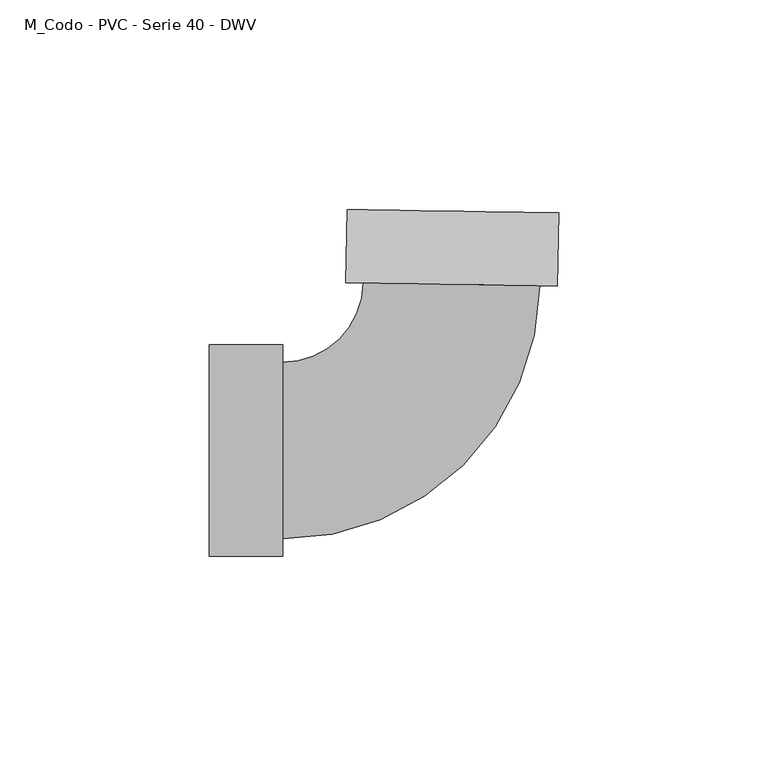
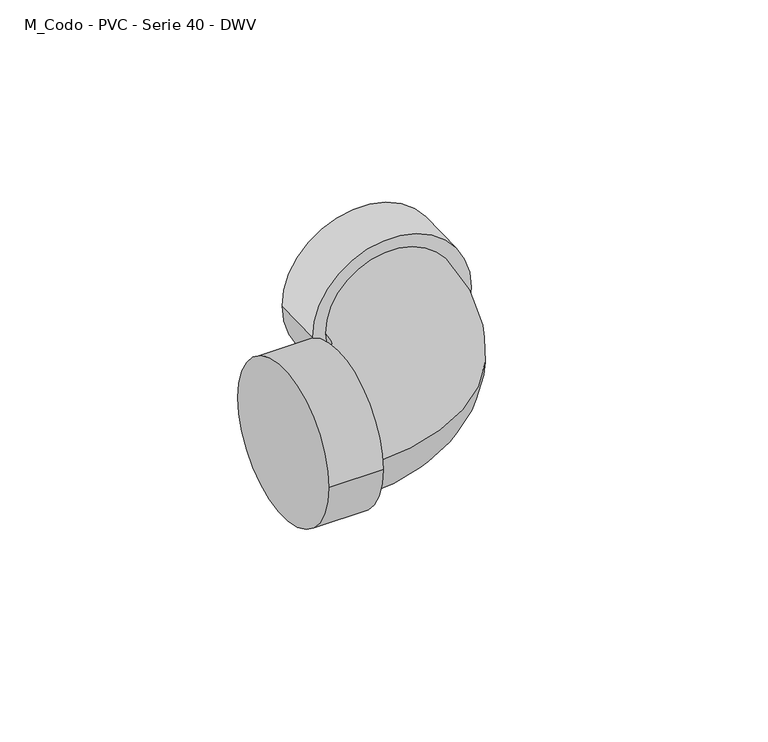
"""IFC4 building model written with IfcOpenShell, lengths in millimetres: pipe fitting geometry, M_Codo - PVC - Serie 40 - DWV : Estándar."""

from ifc_helpers import new_model, si_unit, point, frame, origin, place, context, project, spatial, circle_curve, ellipse_curve, trimmed, source, transform, mapped, element, save
from ifc_brep_helpers import plane_surface, cylinder_surface, revolved_surface, advanced_brep


def m_codo_pvc_serie_40_dwv_f30e2e26(model_context):
    return source(origin(), model_context, "Body", "AdvancedBrep", [
        advanced_brep(
        [(-57.15, -25.2349, 0.0), (-57.15, 25.2349, 0.0), (-39.7002, -25.2349, 0.0), (-39.7002, 25.2349, 0.0), (-39.7002, -21.082, 0.0), (-39.7002, 21.082, 0.0), (-20.4369508, 40.0360793, 0.0), (21.7215307, 39.3539287, 0.0), (25.8738872, 39.286741, 0.0), (-24.5893073, 40.103267, 0.0), (26.1561989, 56.7342572, 0.0), (-24.3069956, 57.5507832, 0.0)],
        [
            (0, 1, circle_curve(frame((-57.15, 0.0, 0.0), z_axis=(-1.0, 0.0, 0.0), x_axis=(0.0, 1.0, 0.0)), 25.2349)),
            (1, 0, circle_curve(frame((-57.15, 0.0, 0.0), z_axis=(-1.0, 0.0, 0.0), x_axis=(0.0, 1.0, 0.0)), 25.2349)),
            (2, 3, circle_curve(frame((-39.7002, 0.0, 0.0), z_axis=(1.0, 0.0, 0.0), x_axis=(0.0, 1.0, 0.0)), 25.2349)),
            (3, 2, circle_curve(frame((-39.7002, 0.0, 0.0), z_axis=(1.0, 0.0, 0.0), x_axis=(0.0, 1.0, 0.0)), 25.2349)),
            (4, 5, circle_curve(frame((-39.7002, 0.0, 0.0), z_axis=(-1.0, 0.0, 0.0), x_axis=(0.0, 1.0, 0.0)), 21.082)),
            (5, 4, circle_curve(frame((-39.7002, 0.0, 0.0), z_axis=(-1.0, 0.0, 0.0), x_axis=(0.0, 1.0, 0.0)), 21.082)),
            (0, 2),
            (3, 1),
            (6, 5, circle_curve(frame((-39.7002, 40.3477707, 0.0), z_axis=(0.0, 0.0, -1.0), x_axis=(0.0, -1.0, 0.0)), 19.2657707)),
            (4, 7, circle_curve(frame((-39.7002, 40.3477707, 0.0), z_axis=(0.0, 0.0, 1.0), x_axis=(0.0, -1.0, 0.0)), 61.4297707)),
            (7, 6, circle_curve(frame((0.64229, 39.695004, 0.0), z_axis=(-0.01617850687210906, -0.9998691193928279, 0.0), x_axis=(-0.9998691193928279, 0.01617850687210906, 0.0)), 21.082)),
            (6, 7, circle_curve(frame((0.64229, 39.695004, 0.0), z_axis=(-0.01617850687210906, -0.9998691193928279, 0.0), x_axis=(-0.9998691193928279, 0.01617850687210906, 0.0)), 21.082)),
            (8, 9, circle_curve(frame((0.64229, 39.695004, 0.0), z_axis=(-0.016178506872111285, -0.9998691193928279, 0.0), x_axis=(-0.9998691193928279, 0.016178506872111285, 0.0)), 25.2349)),
            (9, 8, circle_curve(frame((0.64229, 39.695004, 0.0), z_axis=(-0.016178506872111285, -0.9998691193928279, 0.0), x_axis=(-0.9998691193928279, 0.016178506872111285, 0.0)), 25.2349)),
            (10, 11, circle_curve(frame((0.9246017, 57.1425202, 0.0), z_axis=(0.016178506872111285, 0.9998691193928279, 0.0), x_axis=(-0.9998691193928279, 0.016178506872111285, 0.0)), 25.2349)),
            (11, 10, circle_curve(frame((0.9246017, 57.1425202, 0.0), z_axis=(0.016178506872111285, 0.9998691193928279, 0.0), x_axis=(-0.9998691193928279, 0.016178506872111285, 0.0)), 25.2349)),
            (8, 10),
            (11, 9),
        ],
        [
            plane_surface(frame((-57.15, 0.0, 0.0), z_axis=(-1.0, 0.0, 0.0), x_axis=(0.0, 0.0, 1.0))),
            plane_surface(frame((-39.7002, 0.0, 0.0), z_axis=(1.0, 0.0, 0.0), x_axis=(0.0, 0.0, 1.0))),
            cylinder_surface(frame((-57.15, 0.0, 0.0), z_axis=(-1.0, 0.0, 0.0), x_axis=(0.0, 1.0, 0.0)), 25.2349),
            revolved_surface(trimmed(ellipse_curve(frame((-39.7002, 0.0, 0.0), z_axis=(-1.0, 0.0, 0.0), x_axis=(0.0, 1.0, 0.0)), 21.082, 21.082), [point((-39.7002, -21.082, 0.0))], [point((-39.7002, 21.082, 0.0))], True, "CARTESIAN"), (-39.7002, 40.3477707, 0.0), (0.0, 0.0, 1.0)),
            revolved_surface(trimmed(ellipse_curve(frame((-39.7002, 0.0, 0.0), z_axis=(-1.0, 0.0, 0.0), x_axis=(0.0, 1.0, 0.0)), 21.082, 21.082), [point((-39.7002, 21.082, 0.0))], [point((-39.7002, -21.082, 0.0))], True, "CARTESIAN"), (-39.7002, 40.3477707, 0.0), (0.0, 0.0, 1.0)),
            plane_surface(frame((0.64229, 39.695004, 0.0), z_axis=(-0.016178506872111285, -0.9998691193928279, 0.0), x_axis=(0.0, 0.0, 1.0))),
            plane_surface(frame((0.9246017, 57.1425202, 0.0), z_axis=(0.016178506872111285, 0.9998691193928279, 0.0), x_axis=(0.0, 0.0, 1.0))),
            cylinder_surface(frame((0.64229, 39.695004, 0.0), z_axis=(-0.016178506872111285, -0.9998691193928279, 0.0), x_axis=(-0.9998691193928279, 0.016178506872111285, 0.0)), 25.2349),
        ],
        [
            (0, [[1, 2]]),
            (1, [[3, 4], [5, 6]]),
            (2, [[-1, 7, -4, 8]]),
            (2, [[-2, -8, -3, -7]]),
            (3, [[9, -5, 10, 11]]),
            (4, [[-9, 12, -10, -6]]),
            (5, [[13, 14], [-11, -12]]),
            (6, [[15, 16]]),
            (7, [[-13, 17, -16, 18]]),
            (7, [[-14, -18, -15, -17]]),
        ],
    ),
    ])


if __name__ == "__main__":
    model = new_model("IFC4")
    model_context = context("Model", 3, world=origin())
    ifc_project = project(units=[si_unit("LENGTHUNIT", "METRE", prefix="MILLI")], contexts=[model_context])
    site = spatial("IfcSite", under=ifc_project)
    building = spatial("IfcBuilding", under=site)
    placement = place(None, origin())
    m_codo_pvc_serie_40_dwv_shape = m_codo_pvc_serie_40_dwv_f30e2e26(model_context)
    element("IfcPipeFitting", 1, ObjectType="M_Codo - PVC - Serie 40 - DWV : Estándar", at=placement, inside=building, context=model_context, shape_type="MappedRepresentation", body=[
        mapped(m_codo_pvc_serie_40_dwv_shape, transform((0.0, 0.0, 0.0), x_axis=(1.0, 0.0, 0.0), y_axis=(0.0, 1.0, 0.0), z_axis=(0.0, 0.0, 1.0))),
    ])
    save(model, "model.ifc")
